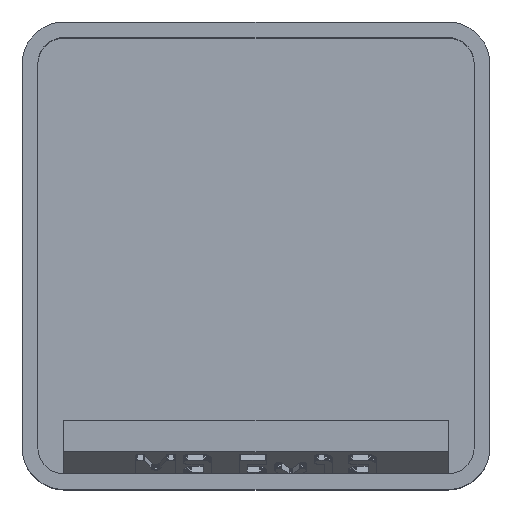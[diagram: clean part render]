
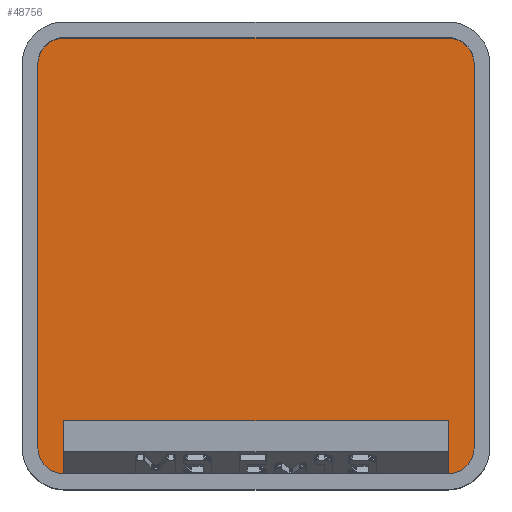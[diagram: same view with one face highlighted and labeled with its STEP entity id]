
A CAD part, top view. The second image highlights one B-rep face of the part: STEP entity #48756.
In plain terms, the highlighted planar face has unit normal (0, 0, 1).
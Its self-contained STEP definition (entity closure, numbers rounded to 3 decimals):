
#912 = PLANE('',#913);
#913 = AXIS2_PLACEMENT_3D('',#914,#915,#916);
#914 = CARTESIAN_POINT('',(-19.6,0.,30.));
#915 = DIRECTION('',(-1.,0.,0.));
#916 = DIRECTION('',(-0.,-1.,-0.));
#940 = CYLINDRICAL_SURFACE('',#941,2.35);
#941 = AXIS2_PLACEMENT_3D('',#942,#943,#944);
#942 = CARTESIAN_POINT('',(-17.25,17.25,5.95));
#943 = DIRECTION('',(-0.,-0.,1.));
#944 = DIRECTION('',(-1.,0.,0.));
#967 = PLANE('',#968);
#968 = AXIS2_PLACEMENT_3D('',#969,#970,#971);
#969 = CARTESIAN_POINT('',(0.,19.6,30.));
#970 = DIRECTION('',(0.,1.,0.));
#971 = DIRECTION('',(-1.,0.,0.));
#995 = CYLINDRICAL_SURFACE('',#996,2.35);
#996 = AXIS2_PLACEMENT_3D('',#997,#998,#999);
#997 = CARTESIAN_POINT('',(17.25,17.25,5.95));
#998 = DIRECTION('',(-0.,-0.,1.));
#999 = DIRECTION('',(-1.,0.,0.));
#1022 = PLANE('',#1023);
#1023 = AXIS2_PLACEMENT_3D('',#1024,#1025,#1026);
#1024 = CARTESIAN_POINT('',(19.6,0.,30.));
#1025 = DIRECTION('',(1.,0.,0.));
#1026 = DIRECTION('',(-0.,1.,0.));
#1050 = CYLINDRICAL_SURFACE('',#1051,2.35);
#1051 = AXIS2_PLACEMENT_3D('',#1052,#1053,#1054);
#1052 = CARTESIAN_POINT('',(17.25,-17.25,5.95));
#1053 = DIRECTION('',(-0.,-0.,1.));
#1054 = DIRECTION('',(-1.,0.,0.));
#1103 = CYLINDRICAL_SURFACE('',#1104,2.35);
#1104 = AXIS2_PLACEMENT_3D('',#1105,#1106,#1107);
#1105 = CARTESIAN_POINT('',(-17.25,-17.25,5.95));
#1106 = DIRECTION('',(-0.,-0.,1.));
#1107 = DIRECTION('',(-1.,0.,0.));
#17869 = EDGE_CURVE('',#17870,#17872,#17874,.T.);
#17870 = VERTEX_POINT('',#17871);
#17871 = CARTESIAN_POINT('',(-19.6,-17.25,5.95));
#17872 = VERTEX_POINT('',#17873);
#17873 = CARTESIAN_POINT('',(-19.6,17.25,5.95));
#17874 = SURFACE_CURVE('',#17875,(#17879,#17886),.PCURVE_S1.);
#17875 = LINE('',#17876,#17877);
#17876 = CARTESIAN_POINT('',(-19.6,0.,5.95));
#17877 = VECTOR('',#17878,1.);
#17878 = DIRECTION('',(0.,1.,0.));
#17879 = PCURVE('',#912,#17880);
#17880 = DEFINITIONAL_REPRESENTATION('',(#17881),#17885);
#17881 = LINE('',#17882,#17883);
#17882 = CARTESIAN_POINT('',(0.,-24.05));
#17883 = VECTOR('',#17884,1.);
#17884 = DIRECTION('',(-1.,0.));
#17885 = ( GEOMETRIC_REPRESENTATION_CONTEXT(2) 
PARAMETRIC_REPRESENTATION_CONTEXT() REPRESENTATION_CONTEXT('2D SPACE',''
  ) );
#17886 = PCURVE('',#17887,#17892);
#17887 = PLANE('',#17888);
#17888 = AXIS2_PLACEMENT_3D('',#17889,#17890,#17891);
#17889 = CARTESIAN_POINT('',(-17.25,-17.25,5.95));
#17890 = DIRECTION('',(0.,0.,-1.));
#17891 = DIRECTION('',(-1.,0.,0.));
#17892 = DEFINITIONAL_REPRESENTATION('',(#17893),#17897);
#17893 = LINE('',#17894,#17895);
#17894 = CARTESIAN_POINT('',(2.35,17.25));
#17895 = VECTOR('',#17896,1.);
#17896 = DIRECTION('',(0.,1.));
#17897 = ( GEOMETRIC_REPRESENTATION_CONTEXT(2) 
PARAMETRIC_REPRESENTATION_CONTEXT() REPRESENTATION_CONTEXT('2D SPACE',''
  ) );
#17944 = EDGE_CURVE('',#17945,#17870,#17947,.T.);
#17945 = VERTEX_POINT('',#17946);
#17946 = CARTESIAN_POINT('',(-17.25,-19.6,5.95));
#17947 = SURFACE_CURVE('',#17948,(#17953,#17960),.PCURVE_S1.);
#17948 = CIRCLE('',#17949,2.35);
#17949 = AXIS2_PLACEMENT_3D('',#17950,#17951,#17952);
#17950 = CARTESIAN_POINT('',(-17.25,-17.25,5.95));
#17951 = DIRECTION('',(0.,0.,-1.));
#17952 = DIRECTION('',(-1.,0.,0.));
#17953 = PCURVE('',#1103,#17954);
#17954 = DEFINITIONAL_REPRESENTATION('',(#17955),#17959);
#17955 = LINE('',#17956,#17957);
#17956 = CARTESIAN_POINT('',(6.283,0.));
#17957 = VECTOR('',#17958,1.);
#17958 = DIRECTION('',(-1.,0.));
#17959 = ( GEOMETRIC_REPRESENTATION_CONTEXT(2) 
PARAMETRIC_REPRESENTATION_CONTEXT() REPRESENTATION_CONTEXT('2D SPACE',''
  ) );
#17960 = PCURVE('',#17887,#17961);
#17961 = DEFINITIONAL_REPRESENTATION('',(#17962),#17966);
#17962 = CIRCLE('',#17963,2.35);
#17963 = AXIS2_PLACEMENT_2D('',#17964,#17965);
#17964 = CARTESIAN_POINT('',(0.,0.));
#17965 = DIRECTION('',(1.,0.));
#17966 = ( GEOMETRIC_REPRESENTATION_CONTEXT(2) 
PARAMETRIC_REPRESENTATION_CONTEXT() REPRESENTATION_CONTEXT('2D SPACE',''
  ) );
#17984 = PLANE('',#17985);
#17985 = AXIS2_PLACEMENT_3D('',#17986,#17987,#17988);
#17986 = CARTESIAN_POINT('',(0.,-19.6,30.));
#17987 = DIRECTION('',(0.,-1.,0.));
#17988 = DIRECTION('',(1.,0.,0.));
#18071 = EDGE_CURVE('',#18072,#18074,#18076,.T.);
#18072 = VERTEX_POINT('',#18073);
#18073 = CARTESIAN_POINT('',(19.6,-17.25,5.95));
#18074 = VERTEX_POINT('',#18075);
#18075 = CARTESIAN_POINT('',(17.25,-19.6,5.95));
#18076 = SURFACE_CURVE('',#18077,(#18082,#18089),.PCURVE_S1.);
#18077 = CIRCLE('',#18078,2.35);
#18078 = AXIS2_PLACEMENT_3D('',#18079,#18080,#18081);
#18079 = CARTESIAN_POINT('',(17.25,-17.25,5.95));
#18080 = DIRECTION('',(0.,0.,-1.));
#18081 = DIRECTION('',(-1.,0.,0.));
#18082 = PCURVE('',#1050,#18083);
#18083 = DEFINITIONAL_REPRESENTATION('',(#18084),#18088);
#18084 = LINE('',#18085,#18086);
#18085 = CARTESIAN_POINT('',(6.283,0.));
#18086 = VECTOR('',#18087,1.);
#18087 = DIRECTION('',(-1.,0.));
#18088 = ( GEOMETRIC_REPRESENTATION_CONTEXT(2) 
PARAMETRIC_REPRESENTATION_CONTEXT() REPRESENTATION_CONTEXT('2D SPACE',''
  ) );
#18089 = PCURVE('',#17887,#18090);
#18090 = DEFINITIONAL_REPRESENTATION('',(#18091),#18095);
#18091 = CIRCLE('',#18092,2.35);
#18092 = AXIS2_PLACEMENT_2D('',#18093,#18094);
#18093 = CARTESIAN_POINT('',(-34.5,0.));
#18094 = DIRECTION('',(1.,0.));
#18095 = ( GEOMETRIC_REPRESENTATION_CONTEXT(2) 
PARAMETRIC_REPRESENTATION_CONTEXT() REPRESENTATION_CONTEXT('2D SPACE',''
  ) );
#18169 = EDGE_CURVE('',#18072,#18170,#18172,.T.);
#18170 = VERTEX_POINT('',#18171);
#18171 = CARTESIAN_POINT('',(19.6,17.25,5.95));
#18172 = SURFACE_CURVE('',#18173,(#18177,#18184),.PCURVE_S1.);
#18173 = LINE('',#18174,#18175);
#18174 = CARTESIAN_POINT('',(19.6,0.,5.95));
#18175 = VECTOR('',#18176,1.);
#18176 = DIRECTION('',(0.,1.,0.));
#18177 = PCURVE('',#1022,#18178);
#18178 = DEFINITIONAL_REPRESENTATION('',(#18179),#18183);
#18179 = LINE('',#18180,#18181);
#18180 = CARTESIAN_POINT('',(0.,-24.05));
#18181 = VECTOR('',#18182,1.);
#18182 = DIRECTION('',(1.,0.));
#18183 = ( GEOMETRIC_REPRESENTATION_CONTEXT(2) 
PARAMETRIC_REPRESENTATION_CONTEXT() REPRESENTATION_CONTEXT('2D SPACE',''
  ) );
#18184 = PCURVE('',#17887,#18185);
#18185 = DEFINITIONAL_REPRESENTATION('',(#18186),#18190);
#18186 = LINE('',#18187,#18188);
#18187 = CARTESIAN_POINT('',(-36.85,17.25));
#18188 = VECTOR('',#18189,1.);
#18189 = DIRECTION('',(0.,1.));
#18190 = ( GEOMETRIC_REPRESENTATION_CONTEXT(2) 
PARAMETRIC_REPRESENTATION_CONTEXT() REPRESENTATION_CONTEXT('2D SPACE',''
  ) );
#18217 = EDGE_CURVE('',#18218,#18170,#18220,.T.);
#18218 = VERTEX_POINT('',#18219);
#18219 = CARTESIAN_POINT('',(17.25,19.6,5.95));
#18220 = SURFACE_CURVE('',#18221,(#18226,#18233),.PCURVE_S1.);
#18221 = CIRCLE('',#18222,2.35);
#18222 = AXIS2_PLACEMENT_3D('',#18223,#18224,#18225);
#18223 = CARTESIAN_POINT('',(17.25,17.25,5.95));
#18224 = DIRECTION('',(0.,0.,-1.));
#18225 = DIRECTION('',(-1.,0.,0.));
#18226 = PCURVE('',#995,#18227);
#18227 = DEFINITIONAL_REPRESENTATION('',(#18228),#18232);
#18228 = LINE('',#18229,#18230);
#18229 = CARTESIAN_POINT('',(6.283,0.));
#18230 = VECTOR('',#18231,1.);
#18231 = DIRECTION('',(-1.,0.));
#18232 = ( GEOMETRIC_REPRESENTATION_CONTEXT(2) 
PARAMETRIC_REPRESENTATION_CONTEXT() REPRESENTATION_CONTEXT('2D SPACE',''
  ) );
#18233 = PCURVE('',#17887,#18234);
#18234 = DEFINITIONAL_REPRESENTATION('',(#18235),#18239);
#18235 = CIRCLE('',#18236,2.35);
#18236 = AXIS2_PLACEMENT_2D('',#18237,#18238);
#18237 = CARTESIAN_POINT('',(-34.5,34.5));
#18238 = DIRECTION('',(1.,0.));
#18239 = ( GEOMETRIC_REPRESENTATION_CONTEXT(2) 
PARAMETRIC_REPRESENTATION_CONTEXT() REPRESENTATION_CONTEXT('2D SPACE',''
  ) );
#18267 = EDGE_CURVE('',#18268,#18218,#18270,.T.);
#18268 = VERTEX_POINT('',#18269);
#18269 = CARTESIAN_POINT('',(-17.25,19.6,5.95));
#18270 = SURFACE_CURVE('',#18271,(#18275,#18282),.PCURVE_S1.);
#18271 = LINE('',#18272,#18273);
#18272 = CARTESIAN_POINT('',(0.,19.6,5.95));
#18273 = VECTOR('',#18274,1.);
#18274 = DIRECTION('',(1.,0.,0.));
#18275 = PCURVE('',#967,#18276);
#18276 = DEFINITIONAL_REPRESENTATION('',(#18277),#18281);
#18277 = LINE('',#18278,#18279);
#18278 = CARTESIAN_POINT('',(0.,-24.05));
#18279 = VECTOR('',#18280,1.);
#18280 = DIRECTION('',(-1.,0.));
#18281 = ( GEOMETRIC_REPRESENTATION_CONTEXT(2) 
PARAMETRIC_REPRESENTATION_CONTEXT() REPRESENTATION_CONTEXT('2D SPACE',''
  ) );
#18282 = PCURVE('',#17887,#18283);
#18283 = DEFINITIONAL_REPRESENTATION('',(#18284),#18288);
#18284 = LINE('',#18285,#18286);
#18285 = CARTESIAN_POINT('',(-17.25,36.85));
#18286 = VECTOR('',#18287,1.);
#18287 = DIRECTION('',(-1.,0.));
#18288 = ( GEOMETRIC_REPRESENTATION_CONTEXT(2) 
PARAMETRIC_REPRESENTATION_CONTEXT() REPRESENTATION_CONTEXT('2D SPACE',''
  ) );
#18316 = EDGE_CURVE('',#17872,#18268,#18317,.T.);
#18317 = SURFACE_CURVE('',#18318,(#18323,#18330),.PCURVE_S1.);
#18318 = CIRCLE('',#18319,2.35);
#18319 = AXIS2_PLACEMENT_3D('',#18320,#18321,#18322);
#18320 = CARTESIAN_POINT('',(-17.25,17.25,5.95));
#18321 = DIRECTION('',(0.,0.,-1.));
#18322 = DIRECTION('',(-1.,0.,0.));
#18323 = PCURVE('',#940,#18324);
#18324 = DEFINITIONAL_REPRESENTATION('',(#18325),#18329);
#18325 = LINE('',#18326,#18327);
#18326 = CARTESIAN_POINT('',(6.283,0.));
#18327 = VECTOR('',#18328,1.);
#18328 = DIRECTION('',(-1.,0.));
#18329 = ( GEOMETRIC_REPRESENTATION_CONTEXT(2) 
PARAMETRIC_REPRESENTATION_CONTEXT() REPRESENTATION_CONTEXT('2D SPACE',''
  ) );
#18330 = PCURVE('',#17887,#18331);
#18331 = DEFINITIONAL_REPRESENTATION('',(#18332),#18336);
#18332 = CIRCLE('',#18333,2.35);
#18333 = AXIS2_PLACEMENT_2D('',#18334,#18335);
#18334 = CARTESIAN_POINT('',(0.,34.5));
#18335 = DIRECTION('',(1.,0.));
#18336 = ( GEOMETRIC_REPRESENTATION_CONTEXT(2) 
PARAMETRIC_REPRESENTATION_CONTEXT() REPRESENTATION_CONTEXT('2D SPACE',''
  ) );
#48756 = ADVANCED_FACE('',(#48757),#17887,.F.);
#48757 = FACE_BOUND('',#48758,.T.);
#48758 = EDGE_LOOP('',(#48759,#48760,#48761,#48782,#48783,#48784,#48785,
    #48786));
#48759 = ORIENTED_EDGE('',*,*,#17869,.F.);
#48760 = ORIENTED_EDGE('',*,*,#17944,.F.);
#48761 = ORIENTED_EDGE('',*,*,#48762,.T.);
#48762 = EDGE_CURVE('',#17945,#18074,#48763,.T.);
#48763 = SURFACE_CURVE('',#48764,(#48768,#48775),.PCURVE_S1.);
#48764 = LINE('',#48765,#48766);
#48765 = CARTESIAN_POINT('',(0.,-19.6,5.95));
#48766 = VECTOR('',#48767,1.);
#48767 = DIRECTION('',(1.,0.,0.));
#48768 = PCURVE('',#17887,#48769);
#48769 = DEFINITIONAL_REPRESENTATION('',(#48770),#48774);
#48770 = LINE('',#48771,#48772);
#48771 = CARTESIAN_POINT('',(-17.25,-2.35));
#48772 = VECTOR('',#48773,1.);
#48773 = DIRECTION('',(-1.,0.));
#48774 = ( GEOMETRIC_REPRESENTATION_CONTEXT(2) 
PARAMETRIC_REPRESENTATION_CONTEXT() REPRESENTATION_CONTEXT('2D SPACE',''
  ) );
#48775 = PCURVE('',#17984,#48776);
#48776 = DEFINITIONAL_REPRESENTATION('',(#48777),#48781);
#48777 = LINE('',#48778,#48779);
#48778 = CARTESIAN_POINT('',(0.,-24.05));
#48779 = VECTOR('',#48780,1.);
#48780 = DIRECTION('',(1.,0.));
#48781 = ( GEOMETRIC_REPRESENTATION_CONTEXT(2) 
PARAMETRIC_REPRESENTATION_CONTEXT() REPRESENTATION_CONTEXT('2D SPACE',''
  ) );
#48782 = ORIENTED_EDGE('',*,*,#18071,.F.);
#48783 = ORIENTED_EDGE('',*,*,#18169,.T.);
#48784 = ORIENTED_EDGE('',*,*,#18217,.F.);
#48785 = ORIENTED_EDGE('',*,*,#18267,.F.);
#48786 = ORIENTED_EDGE('',*,*,#18316,.F.);
